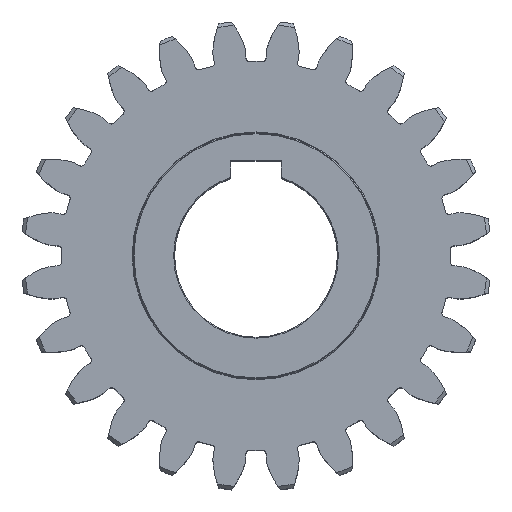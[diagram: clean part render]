
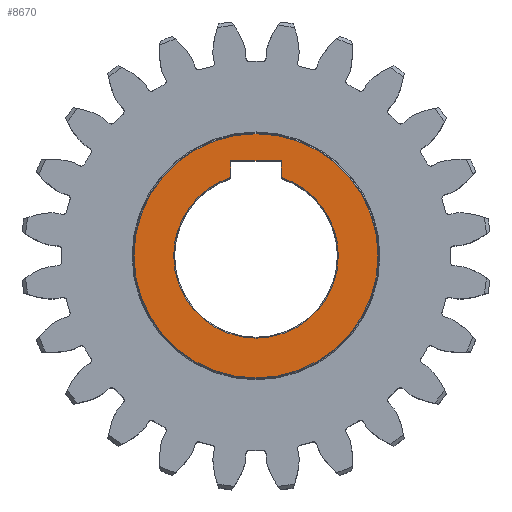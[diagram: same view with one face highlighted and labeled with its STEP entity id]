
A CAD part, top view. The second image highlights one B-rep face of the part: STEP entity #8670.
In plain terms, the highlighted planar face has unit normal (0, 0, 1).
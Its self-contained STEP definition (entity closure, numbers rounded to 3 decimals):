
#2 = EDGE_CURVE ( 'NONE', #77, #2830, #2877, .T. ) ;
#77 = VERTEX_POINT ( 'NONE', #10174 ) ;
#133 = DIRECTION ( 'NONE',  ( 0., 0., 1. ) ) ;
#213 = VERTEX_POINT ( 'NONE', #3892 ) ;
#290 = EDGE_CURVE ( 'NONE', #2830, #12998, #4279, .T. ) ;
#306 = CARTESIAN_POINT ( 'NONE',  ( -7., 26.3, 30. ) ) ;
#452 = AXIS2_PLACEMENT_3D ( 'NONE', #11412, #1190, #13819 ) ;
#479 = ORIENTED_EDGE ( 'NONE', *, *, #290, .T. ) ;
#659 = CARTESIAN_POINT ( 'NONE',  ( -33.75, 0., 30. ) ) ;
#999 = VECTOR ( 'NONE', #4200, 1000. ) ;
#1190 = DIRECTION ( 'NONE',  ( 0., 0., -1. ) ) ;
#1227 = VECTOR ( 'NONE', #6606, 1000. ) ;
#1369 = CARTESIAN_POINT ( 'NONE',  ( 7., 21.646, 30. ) ) ;
#1431 = ORIENTED_EDGE ( 'NONE', *, *, #5755, .T. ) ;
#1551 = DIRECTION ( 'NONE',  ( 1., 0., 0. ) ) ;
#1652 = VERTEX_POINT ( 'NONE', #659 ) ;
#2337 = EDGE_CURVE ( 'NONE', #213, #77, #7740, .T. ) ;
#2535 = EDGE_LOOP ( 'NONE', ( #12801, #9630, #1431, #15999, #11579, #479 ) ) ;
#2830 = VERTEX_POINT ( 'NONE', #306 ) ;
#2877 = LINE ( 'NONE', #13243, #999 ) ;
#3010 = AXIS2_PLACEMENT_3D ( 'NONE', #3899, #13971, #4221 ) ;
#3069 = CIRCLE ( 'NONE', #12304, 33.75 ) ;
#3356 = EDGE_CURVE ( 'NONE', #12998, #3943, #4470, .T. ) ;
#3598 = DIRECTION ( 'NONE',  ( 0., 0., -1. ) ) ;
#3892 = CARTESIAN_POINT ( 'NONE',  ( -22.75, 0., 30. ) ) ;
#3899 = CARTESIAN_POINT ( 'NONE',  ( 0., 0., 30. ) ) ;
#3943 = VERTEX_POINT ( 'NONE', #1369 ) ;
#4040 = CARTESIAN_POINT ( 'NONE',  ( 7., 26.3, 30. ) ) ;
#4200 = DIRECTION ( 'NONE',  ( 0., 1., 0. ) ) ;
#4221 = DIRECTION ( 'NONE',  ( 1., 0., 0. ) ) ;
#4279 = LINE ( 'NONE', #4040, #1227 ) ;
#4285 = DIRECTION ( 'NONE',  ( 0., 0., -1. ) ) ;
#4470 = LINE ( 'NONE', #14538, #6381 ) ;
#5453 = DIRECTION ( 'NONE',  ( 1., 0., 0. ) ) ;
#5467 = FACE_OUTER_BOUND ( 'NONE', #6197, .T. ) ;
#5755 = EDGE_CURVE ( 'NONE', #10237, #213, #16208, .T. ) ;
#6107 = EDGE_CURVE ( 'NONE', #1652, #12272, #3069, .T. ) ;
#6197 = EDGE_LOOP ( 'NONE', ( #13274, #12617 ) ) ;
#6381 = VECTOR ( 'NONE', #13386, 1000. ) ;
#6606 = DIRECTION ( 'NONE',  ( 1., 0., 0. ) ) ;
#6689 = CIRCLE ( 'NONE', #9552, 33.75 ) ;
#6998 = CARTESIAN_POINT ( 'NONE',  ( 0., 0., 30. ) ) ;
#7563 = CIRCLE ( 'NONE', #452, 22.75 ) ;
#7740 = CIRCLE ( 'NONE', #8247, 22.75 ) ;
#8247 = AXIS2_PLACEMENT_3D ( 'NONE', #6998, #4285, #5453 ) ;
#8670 = ADVANCED_FACE ( 'NONE', ( #5467, #12894 ), #14131, .T. ) ;
#9196 = EDGE_CURVE ( 'NONE', #12272, #1652, #6689, .T. ) ;
#9552 = AXIS2_PLACEMENT_3D ( 'NONE', #14095, #133, #1551 ) ;
#9630 = ORIENTED_EDGE ( 'NONE', *, *, #14168, .T. ) ;
#10174 = CARTESIAN_POINT ( 'NONE',  ( -7., 21.646, 30. ) ) ;
#10237 = VERTEX_POINT ( 'NONE', #15400 ) ;
#10271 = CARTESIAN_POINT ( 'NONE',  ( 0., 0., 30. ) ) ;
#11353 = DIRECTION ( 'NONE',  ( 1., 0., 0. ) ) ;
#11412 = CARTESIAN_POINT ( 'NONE',  ( 0., 0., 30. ) ) ;
#11579 = ORIENTED_EDGE ( 'NONE', *, *, #2, .T. ) ;
#12272 = VERTEX_POINT ( 'NONE', #14844 ) ;
#12304 = AXIS2_PLACEMENT_3D ( 'NONE', #10271, #16235, #11353 ) ;
#12617 = ORIENTED_EDGE ( 'NONE', *, *, #9196, .T. ) ;
#12801 = ORIENTED_EDGE ( 'NONE', *, *, #3356, .T. ) ;
#12894 = FACE_BOUND ( 'NONE', #2535, .T. ) ;
#12998 = VERTEX_POINT ( 'NONE', #13692 ) ;
#13243 = CARTESIAN_POINT ( 'NONE',  ( -7., 18.7, 30. ) ) ;
#13274 = ORIENTED_EDGE ( 'NONE', *, *, #6107, .T. ) ;
#13386 = DIRECTION ( 'NONE',  ( 0., -1., 0. ) ) ;
#13513 = DIRECTION ( 'NONE',  ( 1., 0., 0. ) ) ;
#13692 = CARTESIAN_POINT ( 'NONE',  ( 7., 26.3, 30. ) ) ;
#13819 = DIRECTION ( 'NONE',  ( 1., 0., 0. ) ) ;
#13971 = DIRECTION ( 'NONE',  ( 0., 0., 1. ) ) ;
#14095 = CARTESIAN_POINT ( 'NONE',  ( 0., 0., 30. ) ) ;
#14131 = PLANE ( 'NONE',  #3010 ) ;
#14168 = EDGE_CURVE ( 'NONE', #3943, #10237, #7563, .T. ) ;
#14538 = CARTESIAN_POINT ( 'NONE',  ( 7., 18.7, 30. ) ) ;
#14844 = CARTESIAN_POINT ( 'NONE',  ( 33.75, 0., 30. ) ) ;
#14895 = AXIS2_PLACEMENT_3D ( 'NONE', #14922, #3598, #13513 ) ;
#14922 = CARTESIAN_POINT ( 'NONE',  ( 0., 0., 30. ) ) ;
#15400 = CARTESIAN_POINT ( 'NONE',  ( 22.75, 0., 30. ) ) ;
#15999 = ORIENTED_EDGE ( 'NONE', *, *, #2337, .T. ) ;
#16208 = CIRCLE ( 'NONE', #14895, 22.75 ) ;
#16235 = DIRECTION ( 'NONE',  ( 0., 0., 1. ) ) ;
